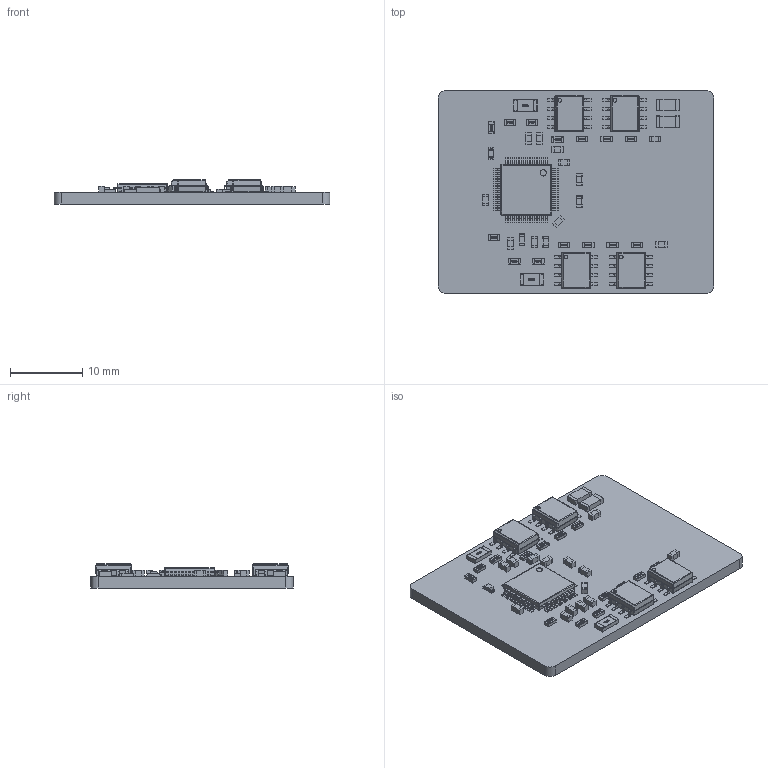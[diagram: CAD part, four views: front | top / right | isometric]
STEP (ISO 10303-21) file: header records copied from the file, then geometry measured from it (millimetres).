
FILE_DESCRIPTION(('Open CASCADE Model'),'2;1');
FILE_NAME('Open CASCADE Shape Model','2018-05-24T10:48:11',('Author'),( 'Open CASCADE'),'Open CASCADE STEP processor 6.8','Open CASCADE 6.8' ,'Unknown');
FILE_SCHEMA(('AUTOMOTIVE_DESIGN { 1 0 10303 214 1 1 1 1 }'));
Products named in the file (1): PCB
Bounding box: 38.1 x 27.94 x 3.33 mm (x, y, z)
Volume: 1927.5 mm3; surface area: 3171.9 mm2
Topology: 118 solids, 1115 shells, 4373 faces, 12532 edges, 9221 vertices
Faces by surface type: plane 2656, bspline 798, cylinder 743, sphere 176
Full cylindrical faces by diameter (mm): 0.5 x4, 0.875 x1
Entity records: 202244 total; most frequent: CARTESIAN_POINT 89129, ORIENTED_EDGE 19343, DIRECTION 18929, EDGE_CURVE 12356, VERTEX_POINT 9221, LINE 8067, VECTOR 8067, AXIS2_PLACEMENT_3D 5431
